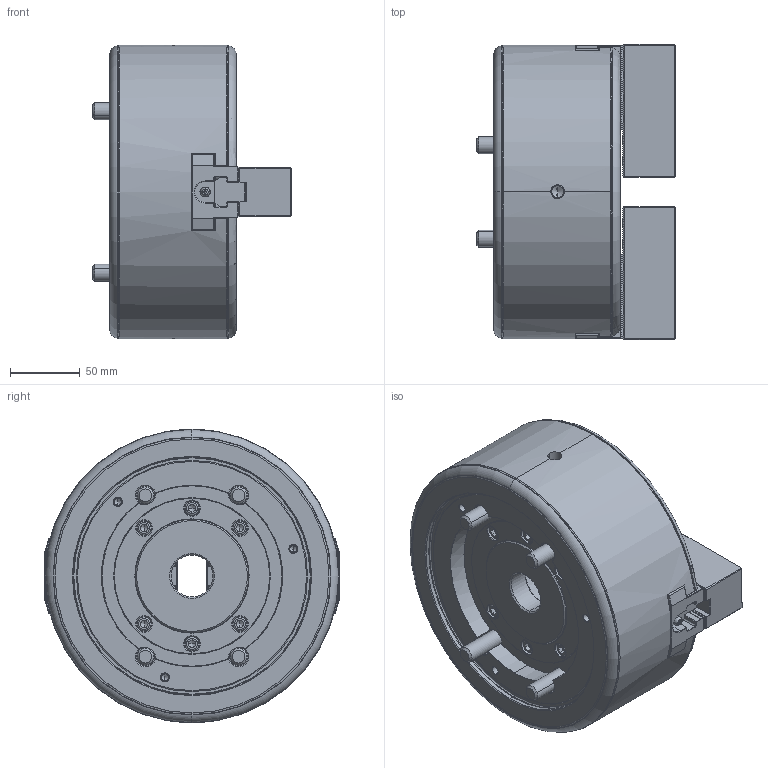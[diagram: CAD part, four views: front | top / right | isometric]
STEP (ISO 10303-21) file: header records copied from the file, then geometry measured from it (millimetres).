
FILE_DESCRIPTION (( 'STEP AP203' ), '1' );
FILE_NAME ('DEV-BRT08-HUC.STEP', '2024-03-07T09:53:11', ( '' ), ( '' ), 'SwSTEP 2.0', 'SolidWorks 2022', '' );
FILE_SCHEMA (( 'CONFIG_CONTROL_DESIGN' ));
Length unit declared in the file: millimetre
Products named in the file (9): BRT08-Nishi20 Tナット-Puls_61P417260-1 B-208 Tﾅｯﾄ-ﾃﾞﾌｫﾙﾄ; DEV-BRT08-HUC; Part1^DEV-BRT08-クミタテ(量産)★; BRT08-61P314548-5 ソフトジョー_BBT208-ﾃﾞﾌｫﾙﾄ; Bアナツキ M12×90; BRT08-Nishi20 ドローナット_ﾃﾞﾌｫﾙﾄ-Design; 61P804199-0(BBT208) カバー_BBT208-ﾃﾞﾌｫﾙﾄ; Bアナツキ M12×30; Bアナツキボタン M5×10_デフォルト
Assembly tree (19 placements, depth 2):
  DEV-BRT08-HUC
    BRT08-Nishi20 ドローナット_ﾃﾞﾌｫﾙﾄ-Design
    BRT08-61P314548-5 ソフトジョー_BBT208-ﾃﾞﾌｫﾙﾄ  x2
    BRT08-Nishi20 Tナット-Puls_61P417260-1 B-208 Tﾅｯﾄ-ﾃﾞﾌｫﾙﾄ  x2
    61P804199-0(BBT208) カバー_BBT208-ﾃﾞﾌｫﾙﾄ
    Bアナツキ M12×30  x4
    Bアナツキボタン M5×10_デフォルト  x4
    Bアナツキ M12×90  x4
    Part1^DEV-BRT08-クミタテ(量産)★
Bounding box: 142.2 x 211.37 x 210 mm (x, y, z)
Volume: 2844564.7 mm3; surface area: 314911.7 mm2
Topology: 19 solids, 23 shells, 3043 faces, 8306 edges, 5381 vertices
Faces by surface type: plane 2092, cylinder 414, cone 300, bspline 126, torus 103, sphere 8
Entity records: 81113 total; most frequent: CARTESIAN_POINT 20264, ORIENTED_EDGE 12942, DIRECTION 11542, EDGE_CURVE 6471, LINE 4754, VECTOR 4754, VERTEX_POINT 4222, AXIS2_PLACEMENT_3D 3394
